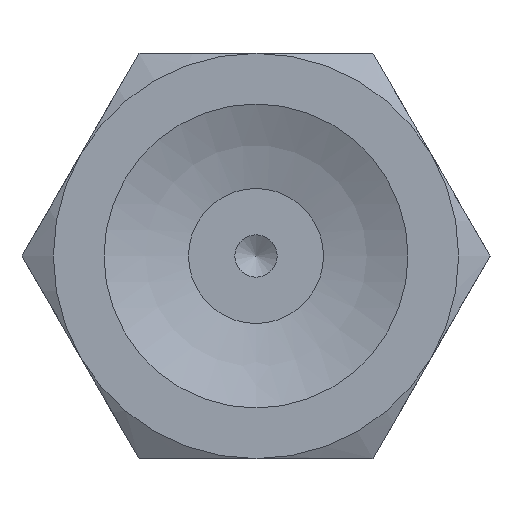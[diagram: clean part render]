
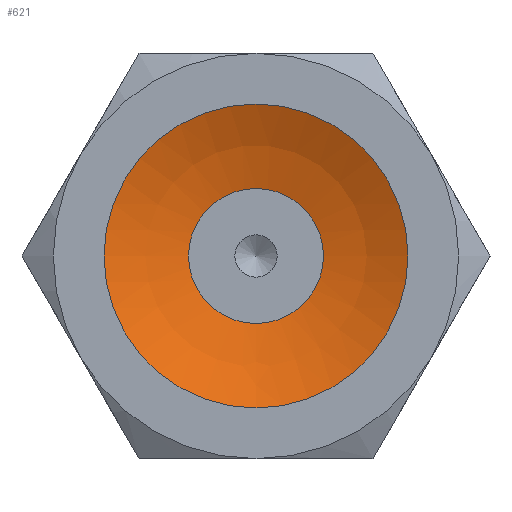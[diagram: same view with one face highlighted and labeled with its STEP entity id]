
A CAD part, front view. The second image highlights one B-rep face of the part: STEP entity #621.
In plain terms, the highlighted spherical face has radius 10.203 mm.
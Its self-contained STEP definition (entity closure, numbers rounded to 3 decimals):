
#621=ADVANCED_FACE('',(#915,#916),#917,.F.);
#915=FACE_OUTER_BOUND('',#1260,.T.);
#916=FACE_OUTER_BOUND('',#1261,.T.);
#917=SPHERICAL_SURFACE('',#1262,10.203);
#1260=EDGE_LOOP('',(#2030));
#1261=EDGE_LOOP('',(#2031));
#1262=AXIS2_PLACEMENT_3D('',#2032,#2033,#2034);
#2030=ORIENTED_EDGE('',*,*,#2385,.T.);
#2031=ORIENTED_EDGE('',*,*,#2386,.F.);
#2032=CARTESIAN_POINT('',(0.,-9.157,0.));
#2033=DIRECTION('',(0.0,-1.0,0.));
#2034=DIRECTION('',(1.0,0.0,0.0));
#2385=EDGE_CURVE('',#2736,#2736,#2737,.T.);
#2386=EDGE_CURVE('',#2738,#2738,#2739,.T.);
#2736=VERTEX_POINT('',#3682);
#2737=CIRCLE('',#3683,4.5);
#2738=VERTEX_POINT('',#3684);
#2739=CIRCLE('',#3685,2.);
#3682=CARTESIAN_POINT('',(0.0,0.,-4.5));
#3683=AXIS2_PLACEMENT_3D('',#4057,#4058,#4059);
#3684=CARTESIAN_POINT('',(0.0,0.848,-2.));
#3685=AXIS2_PLACEMENT_3D('',#4060,#4061,#4062);
#4057=CARTESIAN_POINT('',(0.0,0.,0.0));
#4058=DIRECTION('',(0.0,-1.0,0.));
#4059=DIRECTION('',(0.0,0.,-1.0));
#4060=CARTESIAN_POINT('',(0.0,0.848,0.0));
#4061=DIRECTION('',(0.0,-1.0,0.));
#4062=DIRECTION('',(0.0,0.,-1.0));
